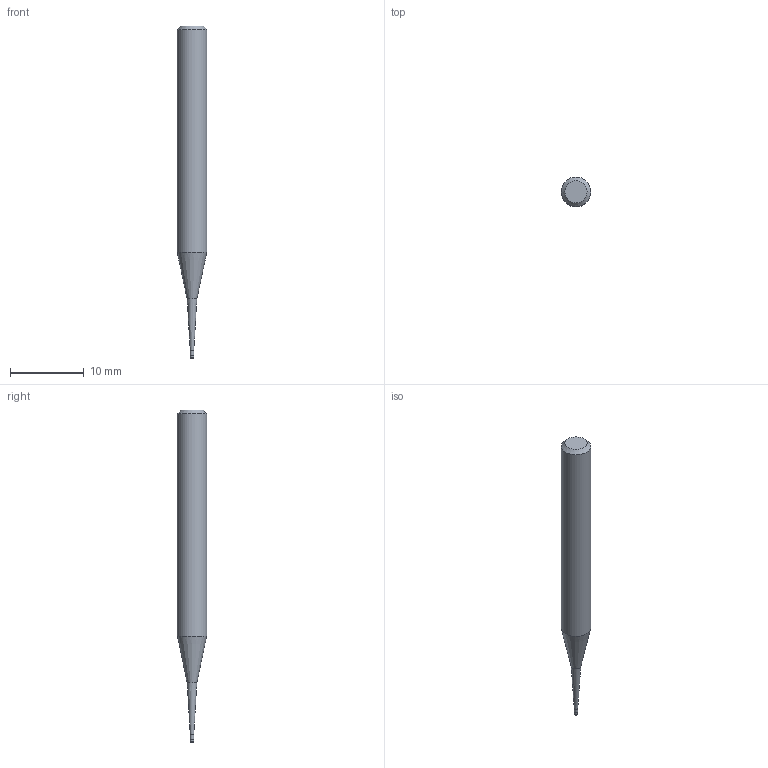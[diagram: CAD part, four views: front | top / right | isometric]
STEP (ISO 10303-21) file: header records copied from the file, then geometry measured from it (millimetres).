
FILE_DESCRIPTION((''),'2;1');
FILE_NAME('C:\Users\nsx150\AppData\Local\Temp\Mastercam 2021\YKS1SUSFZB\TEMP.step','2025-06-23T14:03:32',(''),(''),'STEP Write','Mastercam 2021 ... CNC Software, Inc.','');
FILE_SCHEMA(('AUTOMOTIVE_DESIGN'));
Length unit declared in the file: millimetre
Products named in the file (1): None
Bounding box: 4 x 4 x 45 mm (x, y, z)
Volume: 426.9 mm3; surface area: 469.7 mm2
Topology: 2 solids, 2 shells, 11 faces, 16 edges, 9 vertices
Faces by surface type: plane 4, cylinder 3, cone 3, torus 1
Full cylindrical faces by diameter (mm): 0.48 x1, 0.5 x1, 4 x1
Entity records: 253 total; most frequent: DIRECTION 44, CARTESIAN_POINT 31, AXIS2_PLACEMENT_3D 22, ORIENTED_EDGE 18, EDGE_LOOP 18, STYLED_ITEM 14, ADVANCED_FACE 11, FACE_BOUND 11
